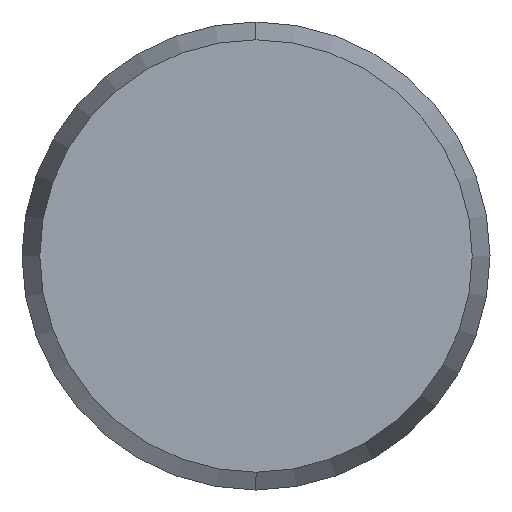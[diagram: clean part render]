
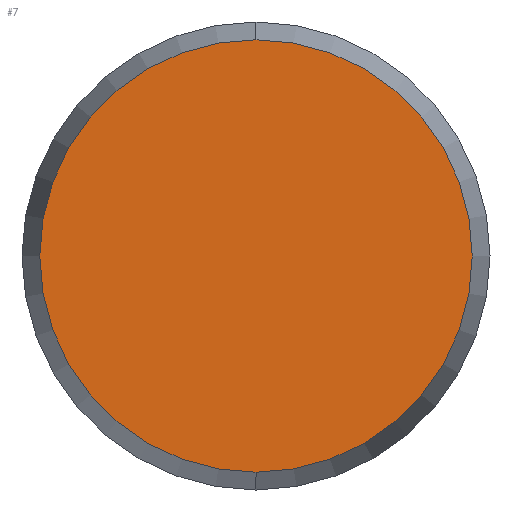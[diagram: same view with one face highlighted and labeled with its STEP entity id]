
A CAD part, left-side view. The second image highlights one B-rep face of the part: STEP entity #7.
In plain terms, the highlighted planar face has unit normal (-1, 0, 0).
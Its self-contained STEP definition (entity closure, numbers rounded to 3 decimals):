
#7 = ADVANCED_FACE ( 'NONE', ( #198 ), #197, .F. ) ;
#9 = EDGE_LOOP ( 'NONE', ( #36, #37 ) ) ;
#10 = VERTEX_POINT ( 'NONE', #192 ) ;
#13 = EDGE_CURVE ( 'NONE', #10, #26, #187, .T. ) ;
#17 = EDGE_CURVE ( 'NONE', #26, #10, #171, .T. ) ;
#26 = VERTEX_POINT ( 'NONE', #162 ) ;
#36 = ORIENTED_EDGE ( 'NONE', *, *, #13, .F. ) ;
#37 = ORIENTED_EDGE ( 'NONE', *, *, #17, .F. ) ;
#162 = CARTESIAN_POINT ( 'NONE',  ( -10., 0., -5.544 ) ) ;
#167 = DIRECTION ( 'NONE',  ( 0., 0., -1. ) ) ;
#168 = DIRECTION ( 'NONE',  ( 1., 0., 0. ) ) ;
#169 = CARTESIAN_POINT ( 'NONE',  ( -10., 0., 0. ) ) ;
#170 = AXIS2_PLACEMENT_3D ( 'NONE', #169, #168, #167 ) ;
#171 = CIRCLE ( 'NONE', #170, 5.544 ) ;
#183 = DIRECTION ( 'NONE',  ( 0., 0., -1. ) ) ;
#184 = DIRECTION ( 'NONE',  ( 1., 0., 0. ) ) ;
#185 = CARTESIAN_POINT ( 'NONE',  ( -10., 0., 0. ) ) ;
#186 = AXIS2_PLACEMENT_3D ( 'NONE', #185, #184, #183 ) ;
#187 = CIRCLE ( 'NONE', #186, 5.544 ) ;
#192 = CARTESIAN_POINT ( 'NONE',  ( -10., 0., 5.544 ) ) ;
#193 = DIRECTION ( 'NONE',  ( 0., 0., -1. ) ) ;
#194 = DIRECTION ( 'NONE',  ( 1., 0., 0. ) ) ;
#195 = CARTESIAN_POINT ( 'NONE',  ( -10., 0., 0. ) ) ;
#196 = AXIS2_PLACEMENT_3D ( 'NONE', #195, #194, #193 ) ;
#197 = PLANE ( 'NONE',  #196 ) ;
#198 = FACE_OUTER_BOUND ( 'NONE', #9, .T. ) ;
